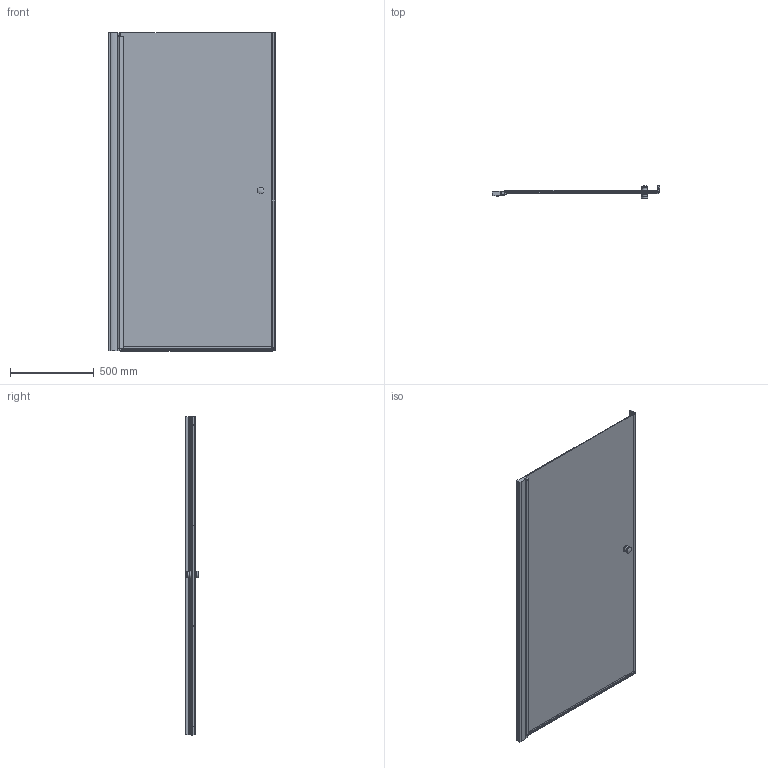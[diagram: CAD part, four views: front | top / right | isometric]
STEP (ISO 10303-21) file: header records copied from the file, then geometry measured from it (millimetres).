
FILE_DESCRIPTION(/* description */ (''),/* implementation_level */ '2;1');
FILE_NAME(/* name */ 'D:\Работа\Сергей\! Готово\Документация и модели всех серий\LUX динамические модели и набор документов\LUX DOOR GK-601\LUX DOOR GK-601 левая модель\LUX DOOR GK-601 ЛЕВАЯ-3D.stp',/* time_stamp */ '2020-04-03T16:48:51+03:00',/* author */ ('User'),/* organization */ (''),/* preprocessor_version */ 'ST-DEVELOPER v15.2',/* originating_system */ 'Autodesk Inventor 2014',/* authorisation */ '');
FILE_SCHEMA (('AUTOMOTIVE_DESIGN { 1 0 10303 214 3 1 1 }'));
Length unit declared in the file: millimetre
Products named in the file (1): LUX DOOR GK-601 ЛЕВАЯ-3D
Bounding box: 1000 x 81.85 x 1904.24 mm (x, y, z)
Volume: 14672400.3 mm3; surface area: 4517075.5 mm2
Topology: 2 solids, 5 shells, 363 faces, 1037 edges, 684 vertices
Faces by surface type: plane 213, cylinder 134, cone 12, torus 2, sphere 2
Full cylindrical faces by diameter (mm): 4.917 x2, 5 x1, 6 x2, 7 x2, 7.8 x1, 8 x1, 11 x1, 16.9 x1, 30 x2, 38 x4
Entity records: 12188 total; most frequent: CARTESIAN_POINT 2193, ORIENTED_EDGE 2008, DIRECTION 1999, EDGE_CURVE 997, VERTEX_POINT 672, AXIS2_PLACEMENT_3D 672, LINE 655, VECTOR 655
